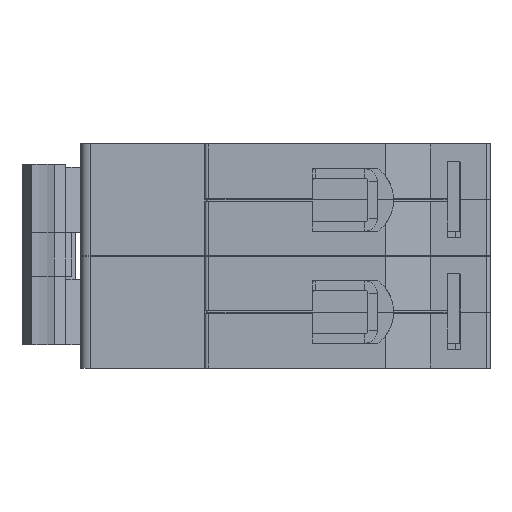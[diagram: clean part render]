
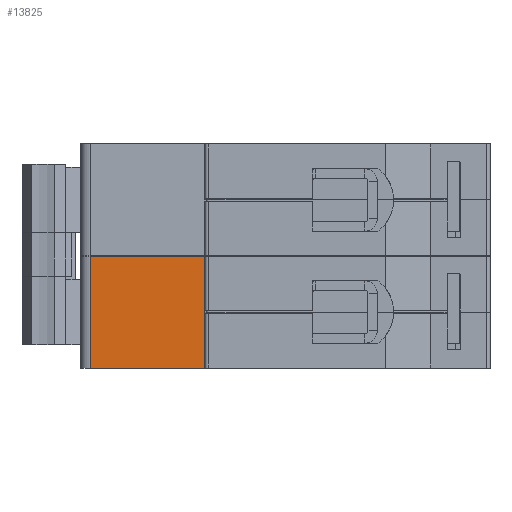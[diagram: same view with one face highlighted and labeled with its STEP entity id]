
A CAD part, left-side view. The second image highlights one B-rep face of the part: STEP entity #13825.
In plain terms, the highlighted planar face has unit normal (-1, 0, 0).
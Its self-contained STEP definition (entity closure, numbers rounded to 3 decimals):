
#13 = VECTOR ( 'NONE', #20411, 1000. ) ;
#531 = DIRECTION ( 'NONE',  ( 0., 0., 1. ) ) ;
#739 = EDGE_LOOP ( 'NONE', ( #11882, #4005, #7836, #1758, #12589, #18108, #11436, #8043 ) ) ;
#1269 = VECTOR ( 'NONE', #11773, 1000. ) ;
#1271 = LINE ( 'NONE', #1656, #9144 ) ;
#1383 = LINE ( 'NONE', #5944, #18443 ) ;
#1656 = CARTESIAN_POINT ( 'NONE',  ( -14., -12., -0.2 ) ) ;
#1758 = ORIENTED_EDGE ( 'NONE', *, *, #18814, .T. ) ;
#2360 = LINE ( 'NONE', #16832, #13 ) ;
#2844 = CARTESIAN_POINT ( 'NONE',  ( -14., -12., -9. ) ) ;
#2950 = VERTEX_POINT ( 'NONE', #10691 ) ;
#3636 = DIRECTION ( 'NONE',  ( 0., -1., 0. ) ) ;
#4005 = ORIENTED_EDGE ( 'NONE', *, *, #21362, .F. ) ;
#4187 = DIRECTION ( 'NONE',  ( 0., 1., 0. ) ) ;
#4236 = CARTESIAN_POINT ( 'NONE',  ( -14., -12.2, -0.2 ) ) ;
#4581 = VERTEX_POINT ( 'NONE', #15470 ) ;
#4698 = LINE ( 'NONE', #15172, #1269 ) ;
#5191 = DIRECTION ( 'NONE',  ( -1., 0., 0. ) ) ;
#5412 = VECTOR ( 'NONE', #7935, 1000. ) ;
#5944 = CARTESIAN_POINT ( 'NONE',  ( -14., -12., 0. ) ) ;
#6401 = CARTESIAN_POINT ( 'NONE',  ( -14., 6.4, 9. ) ) ;
#6540 = VERTEX_POINT ( 'NONE', #17924 ) ;
#6633 = VERTEX_POINT ( 'NONE', #6401 ) ;
#7111 = VERTEX_POINT ( 'NONE', #17523 ) ;
#7441 = EDGE_CURVE ( 'NONE', #7111, #20689, #2360, .T. ) ;
#7650 = EDGE_CURVE ( 'NONE', #16766, #2950, #12587, .T. ) ;
#7836 = ORIENTED_EDGE ( 'NONE', *, *, #7441, .T. ) ;
#7935 = DIRECTION ( 'NONE',  ( 0., 0., 1. ) ) ;
#8043 = ORIENTED_EDGE ( 'NONE', *, *, #17963, .T. ) ;
#8737 = EDGE_CURVE ( 'NONE', #6633, #6540, #4698, .T. ) ;
#9144 = VECTOR ( 'NONE', #9525, 1000. ) ;
#9525 = DIRECTION ( 'NONE',  ( 0., 1., 0. ) ) ;
#10432 = PLANE ( 'NONE',  #10873 ) ;
#10691 = CARTESIAN_POINT ( 'NONE',  ( -14., -12.2, 0. ) ) ;
#10732 = FACE_OUTER_BOUND ( 'NONE', #739, .T. ) ;
#10873 = AXIS2_PLACEMENT_3D ( 'NONE', #13736, #5191, #3636 ) ;
#11436 = ORIENTED_EDGE ( 'NONE', *, *, #20491, .T. ) ;
#11773 = DIRECTION ( 'NONE',  ( 0., -1., 0. ) ) ;
#11882 = ORIENTED_EDGE ( 'NONE', *, *, #8737, .F. ) ;
#12145 = DIRECTION ( 'NONE',  ( 0., 0., 1. ) ) ;
#12211 = VECTOR ( 'NONE', #12145, 1000. ) ;
#12261 = CARTESIAN_POINT ( 'NONE',  ( -14., -12., -0.2 ) ) ;
#12551 = CARTESIAN_POINT ( 'NONE',  ( -14., -12., -9. ) ) ;
#12587 = LINE ( 'NONE', #4236, #18374 ) ;
#12589 = ORIENTED_EDGE ( 'NONE', *, *, #21621, .F. ) ;
#13596 = VECTOR ( 'NONE', #531, 1000. ) ;
#13736 = CARTESIAN_POINT ( 'NONE',  ( -14., -12., -9. ) ) ;
#13825 = ADVANCED_FACE ( 'NONE', ( #10732 ), #10432, .T. ) ;
#15077 = LINE ( 'NONE', #2844, #5412 ) ;
#15172 = CARTESIAN_POINT ( 'NONE',  ( -14., -12., 9. ) ) ;
#15470 = CARTESIAN_POINT ( 'NONE',  ( -14., -12., 0. ) ) ;
#15608 = CARTESIAN_POINT ( 'NONE',  ( -14., -12., -1. ) ) ;
#16766 = VERTEX_POINT ( 'NONE', #19790 ) ;
#16832 = CARTESIAN_POINT ( 'NONE',  ( -14., -12., -9. ) ) ;
#17523 = CARTESIAN_POINT ( 'NONE',  ( -14., 6.4, -9. ) ) ;
#17577 = LINE ( 'NONE', #20586, #13596 ) ;
#17768 = LINE ( 'NONE', #15608, #12211 ) ;
#17924 = CARTESIAN_POINT ( 'NONE',  ( -14., -12., 9. ) ) ;
#17963 = EDGE_CURVE ( 'NONE', #4581, #6540, #17768, .T. ) ;
#18108 = ORIENTED_EDGE ( 'NONE', *, *, #7650, .T. ) ;
#18374 = VECTOR ( 'NONE', #19246, 1000. ) ;
#18443 = VECTOR ( 'NONE', #4187, 1000. ) ;
#18814 = EDGE_CURVE ( 'NONE', #20689, #19751, #15077, .T. ) ;
#19246 = DIRECTION ( 'NONE',  ( 0., 0., 1. ) ) ;
#19751 = VERTEX_POINT ( 'NONE', #12261 ) ;
#19790 = CARTESIAN_POINT ( 'NONE',  ( -14., -12.2, -0.2 ) ) ;
#20411 = DIRECTION ( 'NONE',  ( 0., -1., 0. ) ) ;
#20491 = EDGE_CURVE ( 'NONE', #2950, #4581, #1383, .T. ) ;
#20586 = CARTESIAN_POINT ( 'NONE',  ( -14., 6.4, -9. ) ) ;
#20689 = VERTEX_POINT ( 'NONE', #12551 ) ;
#21362 = EDGE_CURVE ( 'NONE', #7111, #6633, #17577, .T. ) ;
#21621 = EDGE_CURVE ( 'NONE', #16766, #19751, #1271, .T. ) ;
